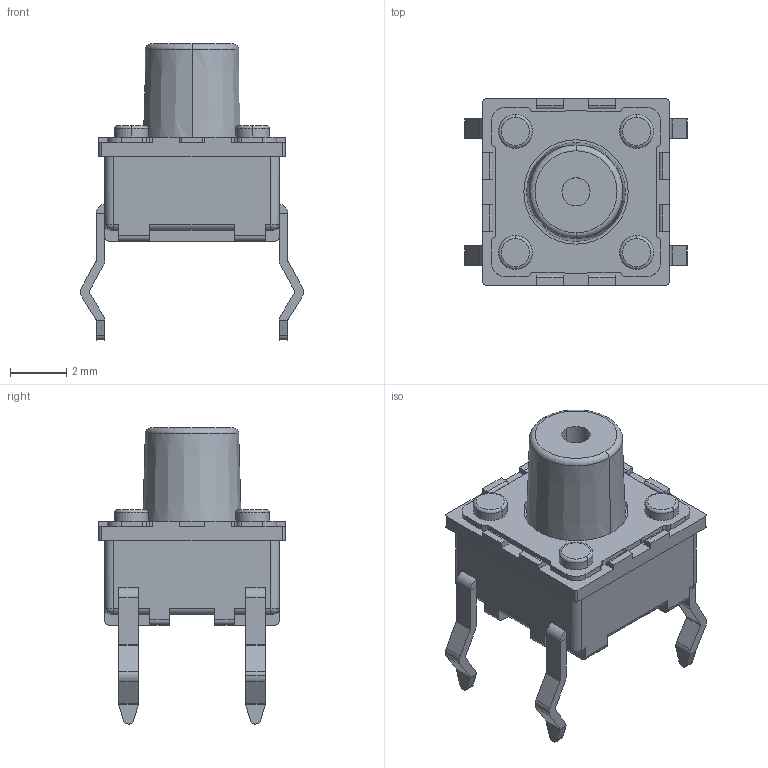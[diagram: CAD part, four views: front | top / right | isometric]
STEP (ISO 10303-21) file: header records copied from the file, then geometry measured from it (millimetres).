
FILE_DESCRIPTION (( 'STEP AP214' ), '1' );
FILE_NAME ('SKQJAE.STEP', '2009-12-02T02:13:42', ( '' ), ( '' ), 'SwSTEP 2.0', 'SolidWorks 2007', '' );
FILE_SCHEMA (( 'AUTOMOTIVE_DESIGN' ));
Length unit declared in the file: millimetre
Products named in the file (1): SKQJAE
Bounding box: 7.9 x 6.6 x 10.5 mm (x, y, z)
Volume: 165.2 mm3; surface area: 307.6 mm2
Topology: 1 solids, 5 shells, 352 faces, 950 edges, 614 vertices
Faces by surface type: plane 184, cylinder 148, torus 18, cone 2
Entity records: 15002 total; most frequent: DIRECTION 1988, CARTESIAN_POINT 1953, ORIENTED_EDGE 1900, EDGE_CURVE 950, AXIS2_PLACEMENT_3D 689, VERTEX_POINT 614, VECTOR 610, LINE 610
